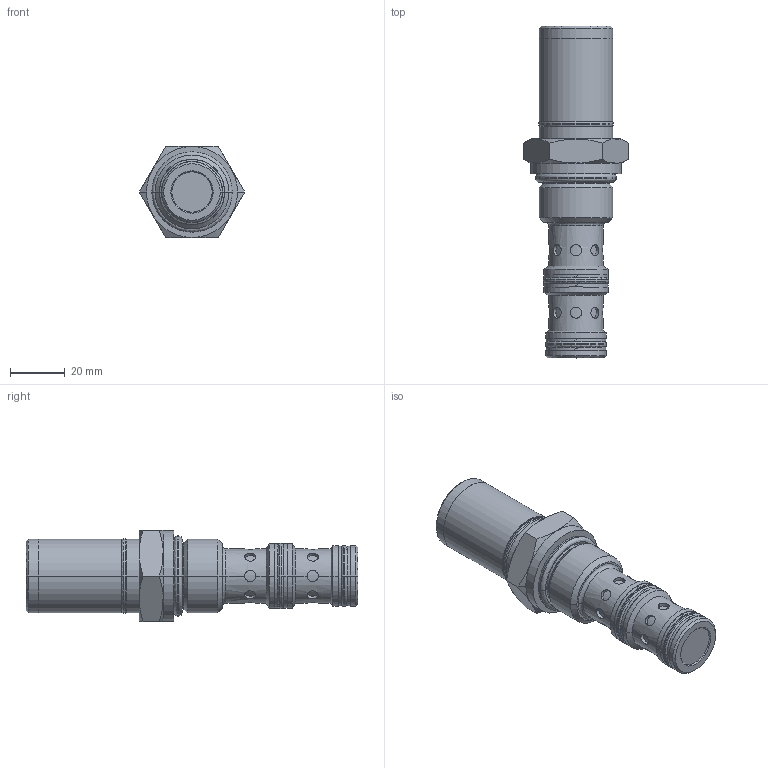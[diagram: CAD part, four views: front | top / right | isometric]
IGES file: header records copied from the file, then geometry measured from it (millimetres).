
Start section:  PTC IGES file: AODV-12-3_-4T.igs
Global section: file name: AODV-12-3_-4T.igs; native system: Creo Elements/Pro by Parametric Technology Corporation; preprocessor: 2015070; author: torrese; organization: Unknown; date: 20151223.111916; units: inch
Bounding box: 38.48 x 121.28 x 33.32 mm (x, y, z)
Volume: 61911.8 mm3; surface area: 12862.5 mm2
Topology: 1 solids, 1 shells, 184 faces, 394 edges, 238 vertices
Faces by surface type: revolution 149, bspline 35
